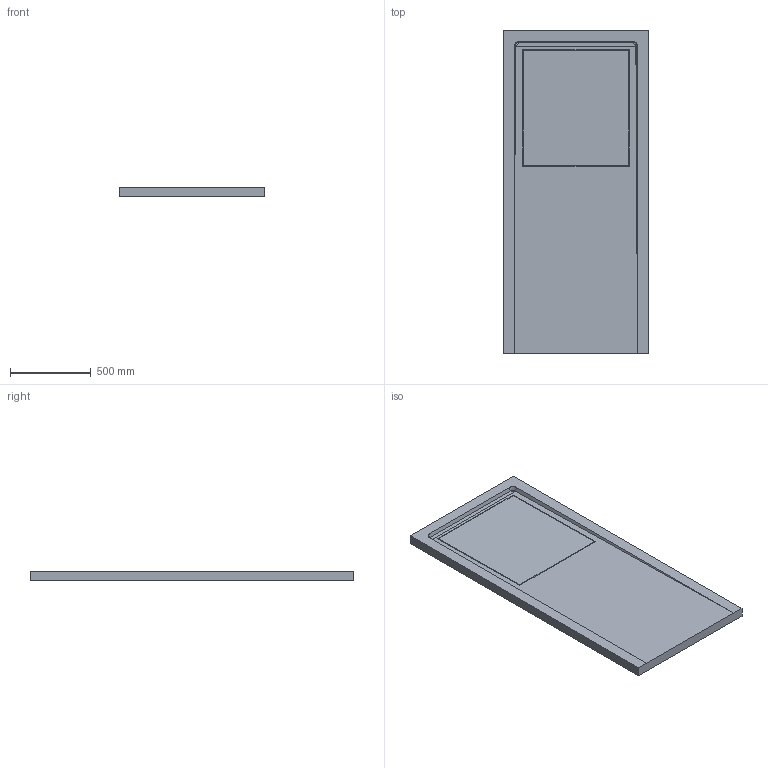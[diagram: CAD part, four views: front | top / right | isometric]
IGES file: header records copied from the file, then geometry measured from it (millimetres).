
Global section: file name: D:\Desktop\GIOVANNI\SCHEDE PRODOTTO\PIATTI DOCCIA\TOLOMEO\3D\MOMA DESIGN_PIATTI DOCCIA_TOLOMEO.igs; native system: Rhinoceros ( Jan 17 2018 ); preprocessor: Trout Lake IGES 012 Jan 17 2018; date: 230524.131113; units: millimetre
Bounding box: 900 x 2000 x 60 mm (x, y, z)
Surface area: 5409545.5 mm2 (no closed solid volume)
Topology: 0 solids, 0 shells, 44 faces, 200 edges, 188 vertices
Faces by surface type: bspline 44
